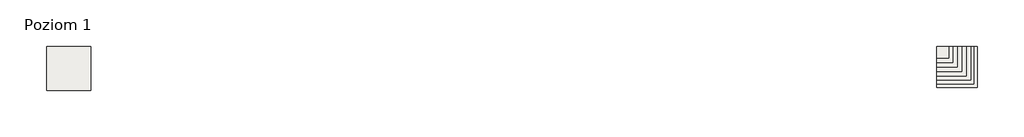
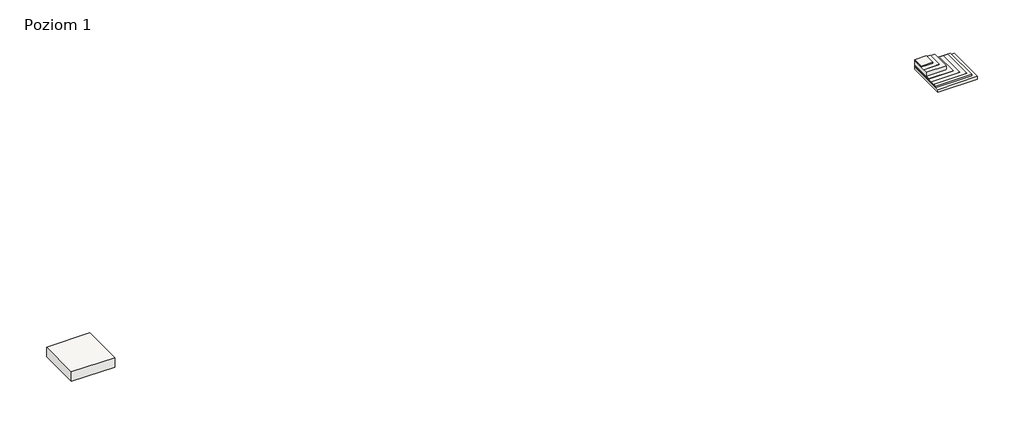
# One storey: 2 roofs.
"""IFC4 building model written with IfcOpenShell, lengths in millimetres."""

from ifc_helpers import new_model, si_unit, frame, origin, origin_with_axes, place, context, project, spatial, polyline, outline, extrude, element, save

model = new_model("IFC4")

# Units and contexts
model_context = context("Model", 3, world=origin())
ifc_project = project(units=[si_unit("LENGTHUNIT", "METRE", prefix="MILLI")], contexts=[model_context])

# Site, building, storey
site = spatial("IfcSite", under=ifc_project)
building = spatial("IfcBuilding", under=site)
storey = spatial("IfcBuildingStorey", under=building, Name="Poziom 1", Elevation=0.0)

# Roofs
placement = place(None, origin())
element("IfcRoof", 1, ObjectType="Dach komunikacyjny CRICKET – kołowy - układ tradycyjny", at=placement, inside=storey, context=model_context, shape_type="SweptSolid", body=[
    extrude(outline(polyline([(-16494.8444454, -525.5470033), (-13494.8444454, -525.5470033), (-13494.8444454, -3525.5470033), (-16494.8444454, -3525.5470033), (-16494.8444454, -525.5470033)])), origin_with_axes(), (0.0, 0.0, 1.0), 705.0),
])
element("IfcRoof", 2, ObjectType="Dach komunikacyjny CRICKET – kołowy - układ tradycyjny", at=placement, inside=storey, context=model_context, shape_type="SweptSolid", body=[
    extrude(outline(polyline([(43905.1555546, -525.5470033), (44705.1555546, -525.5470033), (44705.1555546, -1325.5470033), (43905.1555546, -1325.5470033), (43905.1555546, -525.5470033)])), frame((0.0, 0.0, 645.0), z_axis=(0.0, 0.0, 1.0), x_axis=(1.0, 0.0, 0.0)), (0.0, 0.0, 1.0), 60.0),
    extrude(outline(polyline([(43905.1555546, -525.5470033), (45005.1555546, -525.5470033), (45005.1555546, -1625.5470033), (43905.1555546, -1625.5470033), (43905.1555546, -525.5470033)])), frame((0.0, 0.0, 625.0), z_axis=(0.0, 0.0, 1.0), x_axis=(1.0, 0.0, 0.0)), (0.0, 0.0, 1.0), 20.0),
    extrude(outline(polyline([(43905.1555546, -525.5470033), (45305.1555546, -525.5470033), (45305.1555546, -1925.5470033), (43905.1555546, -1925.5470033), (43905.1555546, -525.5470033)])), frame((0.0, 0.0, 325.0), z_axis=(0.0, 0.0, 1.0), x_axis=(1.0, 0.0, 0.0)), (0.0, 0.0, 1.0), 300.0),
    extrude(outline(polyline([(43905.1555546, -525.5470033), (45605.1555546, -525.5470033), (45605.1555546, -2225.5470033), (43905.1555546, -2225.5470033), (43905.1555546, -525.5470033)])), frame((0.0, 0.0, 305.0), z_axis=(0.0, 0.0, 1.0), x_axis=(1.0, 0.0, 0.0)), (0.0, 0.0, 1.0), 20.0),
    extrude(outline(polyline([(43905.1555546, -525.5470033), (45905.1555546, -525.5470033), (45905.1555546, -2525.5470033), (43905.1555546, -2525.5470033), (43905.1555546, -525.5470033)])), frame((0.0, 0.0, 302.0), z_axis=(0.0, 0.0, 1.0), x_axis=(1.0, 0.0, 0.0)), (0.0, 0.0, 1.0), 3.0),
    extrude(outline(polyline([(43905.1555546, -525.5470033), (46205.1555546, -525.5470033), (46205.1555546, -2825.5470033), (43905.1555546, -2825.5470033), (43905.1555546, -525.5470033)])), frame((0.0, 0.0, 300.0), z_axis=(0.0, 0.0, 1.0), x_axis=(1.0, 0.0, 0.0)), (0.0, 0.0, 1.0), 2.0),
    extrude(outline(polyline([(43905.1555546, -525.5470033), (46405.1555546, -525.5470033), (46405.1555546, -3090.4398026), (43905.1555546, -3090.4398026), (43905.1555546, -525.5470033)])), frame((0.0, 0.0, 200.0), z_axis=(0.0, 0.0, 1.0), x_axis=(1.0, 0.0, 0.0)), (0.0, 0.0, 1.0), 100.0),
    extrude(outline(polyline([(43905.1555546, -525.5470033), (46665.1555546, -525.5470033), (46665.1555546, -3325.5470033), (43905.1555546, -3325.5470033), (43905.1555546, -525.5470033)])), origin_with_axes(), (0.0, 0.0, 1.0), 200.0),
])

save(model, "model.ifc")
